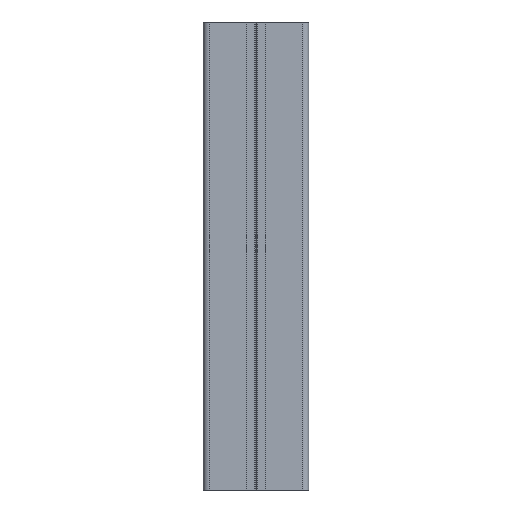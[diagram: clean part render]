
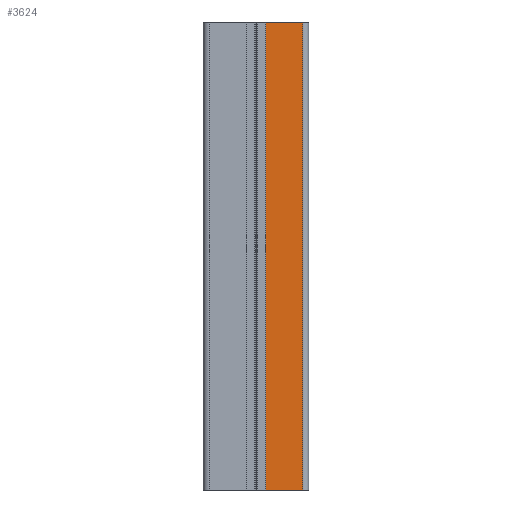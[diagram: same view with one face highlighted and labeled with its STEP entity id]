
A CAD part, left-side view. The second image highlights one B-rep face of the part: STEP entity #3624.
In plain terms, the highlighted planar face has unit normal (-1, 0, 0).
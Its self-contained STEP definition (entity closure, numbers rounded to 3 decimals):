
#43 = EDGE_CURVE ( 'NONE', #4179, #3114, #1663, .T. ) ;
#82 = CARTESIAN_POINT ( 'NONE',  ( -22.5, -20., 200. ) ) ;
#383 = VECTOR ( 'NONE', #3905, 1000. ) ;
#384 = LINE ( 'NONE', #3952, #383 ) ;
#574 = EDGE_CURVE ( 'NONE', #2367, #4179, #1410, .T. ) ;
#584 = EDGE_CURVE ( 'NONE', #3429, #3114, #1432, .T. ) ;
#990 = AXIS2_PLACEMENT_3D ( 'NONE', #3475, #3190, #3221 ) ;
#1381 = VECTOR ( 'NONE', #2015, 1000. ) ;
#1384 = VECTOR ( 'NONE', #2009, 1000. ) ;
#1410 = LINE ( 'NONE', #2032, #1381 ) ;
#1432 = LINE ( 'NONE', #1997, #1384 ) ;
#1539 = DIRECTION ( 'NONE',  ( 0., -1., 0. ) ) ;
#1588 = CARTESIAN_POINT ( 'NONE',  ( -22.5, -4.1, 0. ) ) ;
#1657 = VECTOR ( 'NONE', #1539, 1000. ) ;
#1663 = LINE ( 'NONE', #1588, #1657 ) ;
#1697 = EDGE_CURVE ( 'NONE', #2367, #3429, #384, .T. ) ;
#1997 = CARTESIAN_POINT ( 'NONE',  ( -22.5, -20., 200. ) ) ;
#2009 = DIRECTION ( 'NONE',  ( 0., 0., -1. ) ) ;
#2015 = DIRECTION ( 'NONE',  ( 0., 0., -1. ) ) ;
#2032 = CARTESIAN_POINT ( 'NONE',  ( -22.5, -4.1, 200. ) ) ;
#2035 = FACE_OUTER_BOUND ( 'NONE', #3870, .T. ) ;
#2145 = ORIENTED_EDGE ( 'NONE', *, *, #574, .T. ) ;
#2191 = CARTESIAN_POINT ( 'NONE',  ( -22.5, -4.1, 200. ) ) ;
#2367 = VERTEX_POINT ( 'NONE', #2191 ) ;
#3102 = CARTESIAN_POINT ( 'NONE',  ( -22.5, -20., 0. ) ) ;
#3114 = VERTEX_POINT ( 'NONE', #3102 ) ;
#3138 = ORIENTED_EDGE ( 'NONE', *, *, #43, .T. ) ;
#3190 = DIRECTION ( 'NONE',  ( 1., 0., 0. ) ) ;
#3204 = ORIENTED_EDGE ( 'NONE', *, *, #584, .F. ) ;
#3221 = DIRECTION ( 'NONE',  ( 0., 0., -1. ) ) ;
#3298 = PLANE ( 'NONE',  #990 ) ;
#3429 = VERTEX_POINT ( 'NONE', #82 ) ;
#3475 = CARTESIAN_POINT ( 'NONE',  ( -22.5, -4.1, 200. ) ) ;
#3624 = ADVANCED_FACE ( 'NONE', ( #2035 ), #3298, .F. ) ;
#3819 = ORIENTED_EDGE ( 'NONE', *, *, #1697, .F. ) ;
#3870 = EDGE_LOOP ( 'NONE', ( #3138, #3204, #3819, #2145 ) ) ;
#3905 = DIRECTION ( 'NONE',  ( 0., -1., 0. ) ) ;
#3952 = CARTESIAN_POINT ( 'NONE',  ( -22.5, -4.1, 200. ) ) ;
#4166 = CARTESIAN_POINT ( 'NONE',  ( -22.5, -4.1, 0. ) ) ;
#4179 = VERTEX_POINT ( 'NONE', #4166 ) ;
